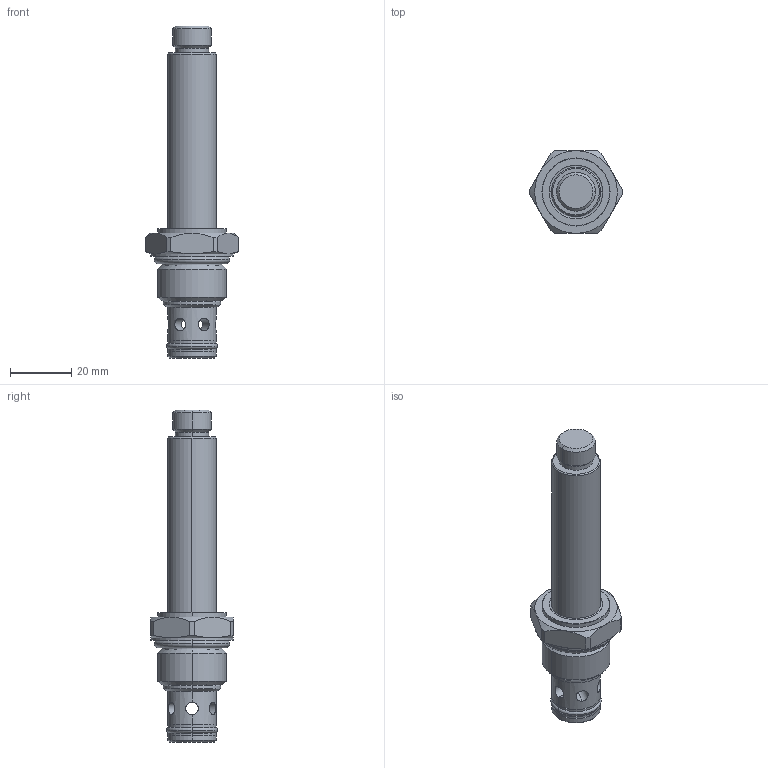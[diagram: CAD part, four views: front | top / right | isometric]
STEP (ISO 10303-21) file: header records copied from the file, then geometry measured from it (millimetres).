
FILE_DESCRIPTION((''),'2;1');
FILE_NAME('PRT0010','2016-02-17T',('mg1'),(''),'PRO/ENGINEER BY PARAMETRIC TECHNOLOGY CORPORATION, 2014200','PRO/ENGINEER BY PARAMETRIC TECHNOLOGY CORPORATION, 2014200','');
FILE_SCHEMA(('CONFIG_CONTROL_DESIGN'));
Length unit declared in the file: millimetre
Products named in the file (1): PRT0010
Bounding box: 30.23 x 26.92 x 108.15 mm (x, y, z)
Volume: 26529 mm3; surface area: 8677.2 mm2
Topology: 3 solids, 3 shells, 113 faces, 264 edges, 156 vertices
Faces by surface type: cylinder 48, cone 30, torus 18, plane 17
Entity records: 3640 total; most frequent: CARTESIAN_POINT 957, DIRECTION 602, ORIENTED_EDGE 528, EDGE_CURVE 264, AXIS2_PLACEMENT_3D 261, VERTEX_POINT 156, CIRCLE 148, EDGE_LOOP 126
